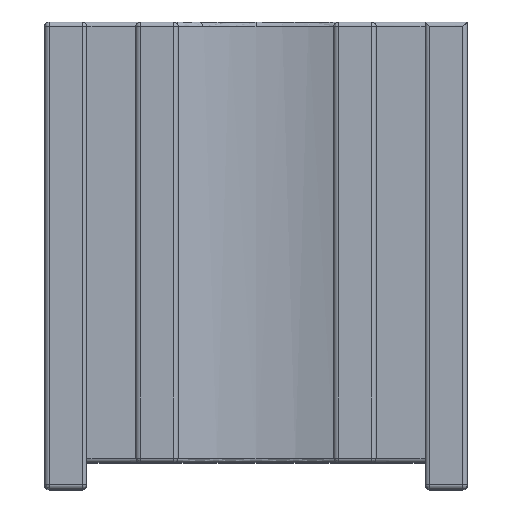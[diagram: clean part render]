
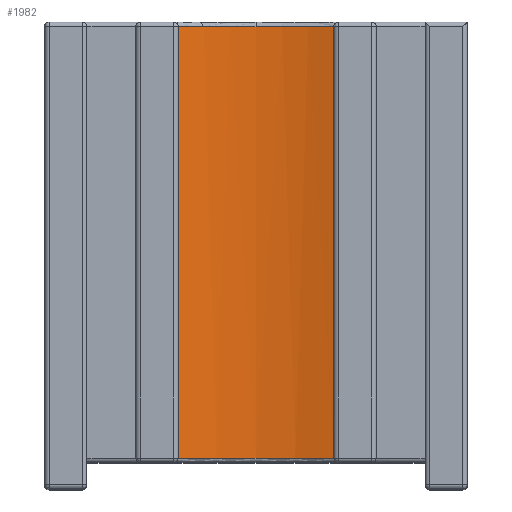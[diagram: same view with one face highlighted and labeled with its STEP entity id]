
A CAD part, top view. The second image highlights one B-rep face of the part: STEP entity #1982.
In plain terms, the highlighted cylindrical face has radius 12.5 mm (diameter 25 mm), a partial arc.
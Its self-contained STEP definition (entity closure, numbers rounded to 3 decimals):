
#347 = CARTESIAN_POINT ( 'NONE',  ( 2205.177, -679.894, -1.5 ) ) ;
#408 = CARTESIAN_POINT ( 'NONE',  ( 2212.177, -702.078, -1.5 ) ) ;
#555 = ORIENTED_EDGE ( 'NONE', *, *, #2951, .F. ) ;
#679 = EDGE_LOOP ( 'NONE', ( #1973, #2261, #4519, #3032, #555 ) ) ;
#875 = CARTESIAN_POINT ( 'NONE',  ( 2208.677, -702.078, 10.5 ) ) ;
#1114 = CARTESIAN_POINT ( 'NONE',  ( 2205.177, -702.078, -1.5 ) ) ;
#1117 = AXIS2_PLACEMENT_3D ( 'NONE', #1175, #5205, #3534 ) ;
#1175 = CARTESIAN_POINT ( 'NONE',  ( 2208.677, -660.494, 10.5 ) ) ;
#1280 = DIRECTION ( 'NONE',  ( 0., 1., 0. ) ) ;
#1299 = CARTESIAN_POINT ( 'NONE',  ( 2208.677, -679.894, 10.5 ) ) ;
#1341 = VERTEX_POINT ( 'NONE', #4215 ) ;
#1511 = AXIS2_PLACEMENT_3D ( 'NONE', #1299, #1280, #2050 ) ;
#1611 = DIRECTION ( 'NONE',  ( 0., 0., 1. ) ) ;
#1644 = DIRECTION ( 'NONE',  ( 0., -1., 0. ) ) ;
#1677 = AXIS2_PLACEMENT_3D ( 'NONE', #875, #4515, #1611 ) ;
#1688 = EDGE_CURVE ( 'NONE', #2369, #4026, #3081, .T. ) ;
#1955 = EDGE_CURVE ( 'NONE', #1341, #2369, #2563, .T. ) ;
#1970 = DIRECTION ( 'NONE',  ( 0., -1., 0. ) ) ;
#1973 = ORIENTED_EDGE ( 'NONE', *, *, #2806, .F. ) ;
#1982 = ADVANCED_FACE ( 'NONE', ( #3929 ), #5136, .F. ) ;
#2050 = DIRECTION ( 'NONE',  ( 0., 0., 1. ) ) ;
#2261 = ORIENTED_EDGE ( 'NONE', *, *, #1688, .F. ) ;
#2369 = VERTEX_POINT ( 'NONE', #3920 ) ;
#2537 = EDGE_CURVE ( 'NONE', #4208, #1341, #4670, .T. ) ;
#2563 = LINE ( 'NONE', #408, #4058 ) ;
#2806 = EDGE_CURVE ( 'NONE', #4026, #3641, #3990, .T. ) ;
#2951 = EDGE_CURVE ( 'NONE', #3641, #4208, #5192, .T. ) ;
#3010 = AXIS2_PLACEMENT_3D ( 'NONE', #3219, #1970, #3636 ) ;
#3032 = ORIENTED_EDGE ( 'NONE', *, *, #2537, .F. ) ;
#3081 = CIRCLE ( 'NONE', #1511, 12.5 ) ;
#3119 = CARTESIAN_POINT ( 'NONE',  ( 2208.677, -660.494, -2. ) ) ;
#3219 = CARTESIAN_POINT ( 'NONE',  ( 2208.677, -660.494, 10.5 ) ) ;
#3465 = DIRECTION ( 'NONE',  ( 0., 1., 0. ) ) ;
#3534 = DIRECTION ( 'NONE',  ( 0., 0., -1. ) ) ;
#3636 = DIRECTION ( 'NONE',  ( 0., 0., -1. ) ) ;
#3641 = VERTEX_POINT ( 'NONE', #5044 ) ;
#3920 = CARTESIAN_POINT ( 'NONE',  ( 2212.177, -679.894, -1.5 ) ) ;
#3929 = FACE_OUTER_BOUND ( 'NONE', #679, .T. ) ;
#3990 = LINE ( 'NONE', #1114, #5055 ) ;
#4026 = VERTEX_POINT ( 'NONE', #347 ) ;
#4058 = VECTOR ( 'NONE', #1644, 1000. ) ;
#4208 = VERTEX_POINT ( 'NONE', #3119 ) ;
#4215 = CARTESIAN_POINT ( 'NONE',  ( 2212.177, -660.494, -1.5 ) ) ;
#4515 = DIRECTION ( 'NONE',  ( 0., 1., 0. ) ) ;
#4519 = ORIENTED_EDGE ( 'NONE', *, *, #1955, .F. ) ;
#4670 = CIRCLE ( 'NONE', #1117, 12.5 ) ;
#5044 = CARTESIAN_POINT ( 'NONE',  ( 2205.177, -660.494, -1.5 ) ) ;
#5055 = VECTOR ( 'NONE', #3465, 1000. ) ;
#5136 = CYLINDRICAL_SURFACE ( 'NONE', #1677, 12.5 ) ;
#5192 = CIRCLE ( 'NONE', #3010, 12.5 ) ;
#5205 = DIRECTION ( 'NONE',  ( 0., -1., 0. ) ) ;
